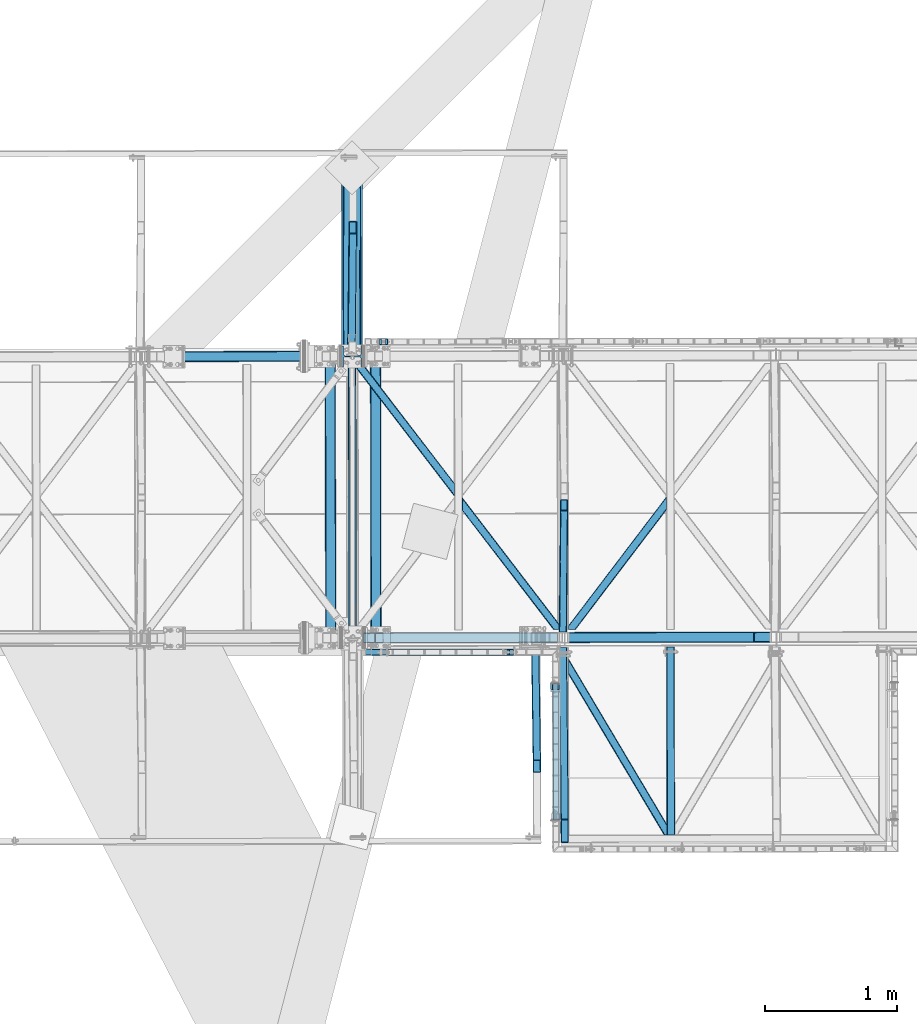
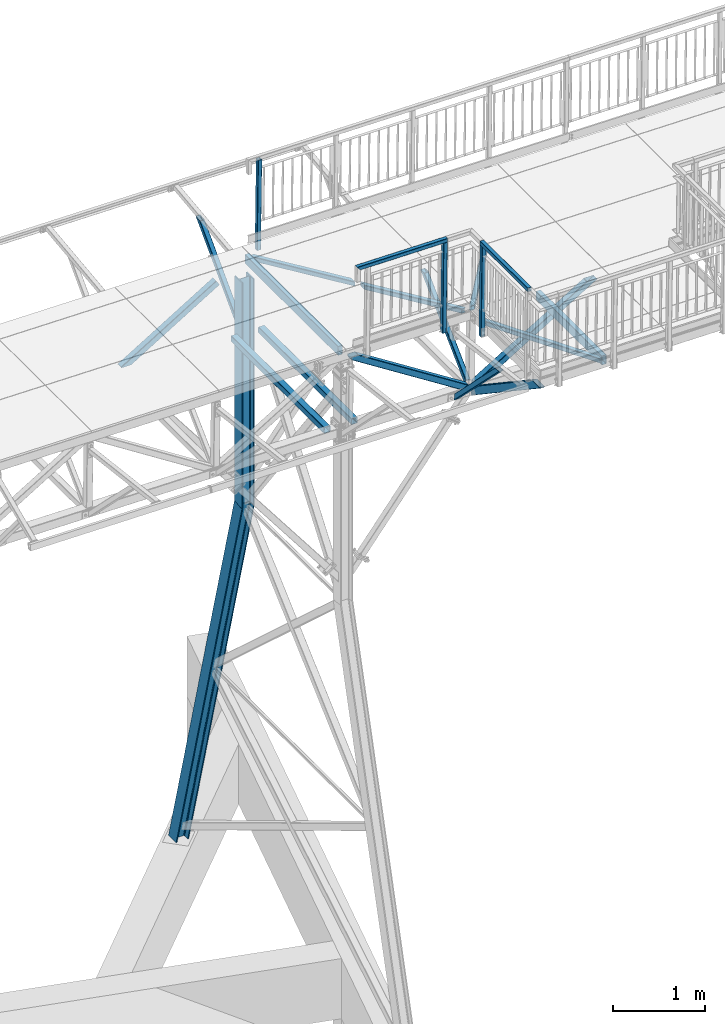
# One storey, part 55 of 169: 22 discrete accessories, 9 elements without a shape of their own.
"""IFC2X3 building model written with IfcOpenShell, lengths in millimetres."""

from ifc_helpers import new_model, si_unit, frame, origin_with_axes, origin_2d_with_axis, place, context, subcontext, project, spatial, polyline, rectangle, hollow_rectangle, i_section, outline, extrude, boolean, clip, halfspace, material, type_object, element, aggregate, save


model = new_model("IFC2X3")

# Units and contexts
model_context = context("Model", 3, precision=1e-05, world=origin_with_axes())
body_context = subcontext(model_context, "Body", "Model", "MODEL_VIEW")
ifc_project = project(units=[si_unit("LENGTHUNIT", "METRE", prefix="MILLI"), si_unit("AREAUNIT", "SQUARE_METRE"), si_unit("VOLUMEUNIT", "CUBIC_METRE"), si_unit("MASSUNIT", "GRAM", prefix="KILO"), si_unit("TIMEUNIT", "SECOND"), si_unit("PLANEANGLEUNIT", "RADIAN"), si_unit("SOLIDANGLEUNIT", "STERADIAN"), si_unit("THERMODYNAMICTEMPERATUREUNIT", "DEGREE_CELSIUS"), si_unit("LUMINOUSINTENSITYUNIT", "LUMEN")], contexts=[model_context])

# Site, building, storey
site_placement = place(None, origin_with_axes())
site = spatial("IfcSite", under=ifc_project, at=site_placement, Name="Undefined", CompositionType="ELEMENT")
building_placement = place(site_placement, origin_with_axes())
building = spatial("IfcBuilding", under=site, at=building_placement, Name="Undefined", CompositionType="ELEMENT")
storey_placement = place(building_placement, origin_with_axes())
storey = spatial("IfcBuildingStorey", under=building, at=storey_placement, Name="Undefined", CompositionType="ELEMENT", Elevation=0.0)

# Assembly, discrete accessory
assembly_1_placement = place(storey_placement, origin_with_axes())
assembly_1 = element("IfcElementAssembly", 1, at=assembly_1_placement, inside=storey, Name="Steel Assembly", AssemblyPlace="NOTDEFINED", PredefinedType="RIGID_FRAME")
ifc_material_1 = material(Name="STEEL/S355")
discrete_accessory_type_1 = type_object("IfcDiscreteAccessoryType", Name="BEAM")
discrete_accessory_1_placement = place(assembly_1_placement, frame((7509.94686979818, 59.0189367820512, 12845.709208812), z_axis=(-0.999917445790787, -0.00186469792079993, 0.0127131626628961), x_axis=(0.0103081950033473, -0.707088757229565, 0.707049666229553)))
discrete_accessory_1 = element("IfcDiscreteAccessory", 2, at=discrete_accessory_1_placement, type_object=discrete_accessory_type_1, material=ifc_material_1, Name="BEAM", ObjectType="SHS60*3", context=body_context, shape_type="Clipping", body=[
    clip(clip(extrude(hollow_rectangle(XDim=60.0, YDim=60.0, WallThickness=3.0, InnerFilletRadius=3.0, OuterFilletRadius=6.0, at=origin_2d_with_axis()), frame((1369.30849689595, 1.74297751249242e-12, 9.09494701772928e-13), z_axis=(-1.0, -3.46944695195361e-18, -1.38777878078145e-17), x_axis=(1.73472347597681e-18, -1.0, 0.0)), (0.0, 0.0, 1.0), 1420.91), halfspace(frame((1329.20790757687, -23.5606693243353, 999.999999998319), z_axis=(-0.619044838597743, -0.785355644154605, -4.97519511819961e-11), x_axis=(0.785355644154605, -0.619044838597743, 1.86615579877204e-10)), True)), halfspace(frame((18.3847806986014, 3.8198777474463e-11, -29.9999999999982), z_axis=(0.707106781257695, -0.7071067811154, 8.78533101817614e-11), x_axis=(-0.707106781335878, -0.707106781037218, 2.34571939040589e-10)), True)),
])
aggregate(assembly_1, [discrete_accessory_1])

# Assembly, discrete accessories
assembly_2_placement = place(storey_placement, origin_with_axes())
assembly_2 = element("IfcElementAssembly", 3, at=assembly_2_placement, inside=storey, Name="Steel Assembly", AssemblyPlace="NOTDEFINED", PredefinedType="RIGID_FRAME")
discrete_accessory_2_placement = place(assembly_2_placement, frame((7733.01307830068, -50.5652261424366, 13855.957583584), z_axis=(-0.859527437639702, -0.510972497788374, 0.0109403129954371), x_axis=(0.510931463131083, -0.859597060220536, -0.00647565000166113)))
discrete_accessory_2 = element("IfcDiscreteAccessory", 4, at=discrete_accessory_2_placement, type_object=discrete_accessory_type_1, material=ifc_material_1, Name="BEAM", ObjectType="K60/4", context=body_context, shape_type="CSG", body=[
    boolean("DIFFERENCE", boolean("DIFFERENCE", boolean("DIFFERENCE", extrude(hollow_rectangle(XDim=60.0, YDim=60.0, WallThickness=4.0, InnerFilletRadius=4.0, OuterFilletRadius=8.0, at=origin_2d_with_axis()), frame((1597.10981986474, -1.81898940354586e-12, -4.35061971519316e-15), z_axis=(-1.0, -3.46944695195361e-18, -1.38777878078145e-17), x_axis=(1.73472347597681e-18, -1.0, 0.0)), (0.0, 0.0, 1.0), 1589.8), extrude(rectangle(XDim=62.0, YDim=122.0, at=origin_2d_with_axis()), frame((1692.25891053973, -2.840765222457e-07, 66.2179347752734), z_axis=(-0.860548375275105, 1.48749394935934e-10, -0.509368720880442), x_axis=(0.509368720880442, -6.07765296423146e-11, -0.860548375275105)), (0.0, 0.0, 1.0), 260.0)), halfspace(frame((1045.20244886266, -5.60106855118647e-07, 845.267314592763), z_axis=(-0.860548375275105, 1.48749394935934e-10, -0.509368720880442), x_axis=(1.73472347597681e-18, -1.0, 0.0)), True)), halfspace(frame((875.829443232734, -1.36969902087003e-09, 483.552269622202), z_axis=(0.509368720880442, -6.07765296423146e-11, -0.860548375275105), x_axis=(0.0, 1.0, 0.0)), True)),
])
discrete_accessory_3_placement = place(assembly_2_placement, frame((7719.80919671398, 87.1453565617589, 12837.6423946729), z_axis=(-0.00954354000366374, -0.554718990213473, -0.831983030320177), x_axis=(0.00860362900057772, -0.832035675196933, 0.554655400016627)))
discrete_accessory_3 = element("IfcDiscreteAccessory", 5, at=discrete_accessory_3_placement, type_object=discrete_accessory_type_1, material=ifc_material_1, Name="BEAM", ObjectType="RHS100*60*3", context=body_context, shape_type="Clipping", body=[
    clip(clip(extrude(hollow_rectangle(XDim=60.0, YDim=100.0, WallThickness=3.0, InnerFilletRadius=3.0, OuterFilletRadius=6.0, at=origin_2d_with_axis()), frame((1838.237499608, 1.81739498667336e-12, -1.51286136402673e-12), z_axis=(-1.0, -3.46944695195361e-18, -1.38777878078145e-17), x_axis=(1.73472347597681e-18, -1.0, 0.0)), (0.0, 0.0, 1.0), 1838.24), halfspace(frame((90.2441333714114, 29.9999999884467, -58.3205029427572), z_axis=(-0.832050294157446, 3.38378720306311e-06, -0.554700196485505), x_axis=(-0.55470019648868, 4.88944351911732e-11, 0.83205029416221)), False)), halfspace(frame((2634.71045787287, 1.16597220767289e-09, 604.623214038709), z_axis=(-0.55470019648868, 4.88944351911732e-11, 0.83205029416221), x_axis=(1.73472347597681e-18, -1.0, 0.0)), True)),
])
discrete_accessory_4_placement = place(assembly_2_placement, frame((8537.74150924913, 60.9356642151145, 13845.723483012), z_axis=(-0.012713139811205, -2.37511238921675e-05, -0.999919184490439), x_axis=(0.00186484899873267, -0.999998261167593, 4.28757666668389e-08)))
discrete_accessory_4 = element("IfcDiscreteAccessory", 6, at=discrete_accessory_4_placement, type_object=discrete_accessory_type_1, material=ifc_material_1, Name="BEAM", ObjectType="RHS120*60*3", context=body_context, shape_type="Clipping", body=[
    clip(clip(extrude(hollow_rectangle(XDim=60.0, YDim=120.0, WallThickness=3.0, InnerFilletRadius=3.0, OuterFilletRadius=6.0, at=origin_2d_with_axis()), frame((1439.99999969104, 4.90047387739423e-16, 6.78473390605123e-18), z_axis=(-1.0, -3.46944695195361e-18, -1.38777878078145e-17), x_axis=(1.73472347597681e-18, -1.0, 0.0)), (0.0, 0.0, 1.0), 1425.0), halfspace(frame((1439.99999981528, 6.08997652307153e-09, -1000.00000000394), z_axis=(-1.0, -3.46944695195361e-18, -1.38777878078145e-17), x_axis=(0.0, 1.0, 0.0)), True)), halfspace(frame((14.999999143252, -1.08593667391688e-09, -159.999999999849), z_axis=(-1.0, -3.46944695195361e-18, -1.38777878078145e-17), x_axis=(0.0, 1.0, 0.0)), False)),
])
aggregate(assembly_2, [discrete_accessory_2, discrete_accessory_3, discrete_accessory_4])

# Assembly, discrete accessory
assembly_3_placement = place(storey_placement, origin_with_axes())
assembly_3 = element("IfcElementAssembly", 7, at=assembly_3_placement, inside=storey, Name="Steel Assembly", AssemblyPlace="NOTDEFINED", PredefinedType="RIGID_FRAME")
discrete_accessory_5_placement = place(assembly_3_placement, frame((6115.36568612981, 2315.9424711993, 12863.38653786), z_axis=(-0.999917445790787, -0.00186469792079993, 0.0127131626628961), x_axis=(0.00767090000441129, 0.707122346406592, 0.70704960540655)))
discrete_accessory_5 = element("IfcDiscreteAccessory", 8, at=discrete_accessory_5_placement, type_object=discrete_accessory_type_1, material=ifc_material_1, Name="BEAM", ObjectType="SHS60*3", context=body_context, shape_type="Clipping", body=[
    clip(clip(extrude(hollow_rectangle(XDim=60.0, YDim=60.0, WallThickness=3.0, InnerFilletRadius=3.0, OuterFilletRadius=6.0, at=origin_2d_with_axis()), frame((1369.14752563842, 1.89499235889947e-12, 0.0), z_axis=(-1.0, -3.46944695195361e-18, -1.38777878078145e-17), x_axis=(1.73472347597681e-18, -1.0, 0.0)), (0.0, 0.0, 1.0), 1499.11), halfspace(frame((1329.20790811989, 23.56066933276, 999.999999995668), z_axis=(-0.619044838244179, 0.785355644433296, -1.17904057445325e-10), x_axis=(-0.785355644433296, -0.619044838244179, 2.44605871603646e-10)), True)), halfspace(frame((-30.0927723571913, -30.0398988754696, 0.540141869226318), z_axis=(0.707106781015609, 0.707106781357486, 0.0), x_axis=(-0.00898967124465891, 0.00898968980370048, 0.999919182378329)), True)),
])
aggregate(assembly_3, [discrete_accessory_5])

assembly_4_placement = place(storey_placement, origin_with_axes())
assembly_4 = element("IfcElementAssembly", 9, at=assembly_4_placement, inside=storey, Name="Steel Assembly", AssemblyPlace="NOTDEFINED", PredefinedType="RIGID_FRAME")
discrete_accessory_6_placement = place(assembly_4_placement, frame((5776.91884338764, 2255.79106076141, 13668.8964315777), z_axis=(0.518820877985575, 0.000967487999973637, -0.854882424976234), x_axis=(-0.854880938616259, -0.00159424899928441, -0.51882177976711)))
discrete_accessory_6 = element("IfcDiscreteAccessory", 10, at=discrete_accessory_6_placement, type_object=discrete_accessory_type_1, material=ifc_material_1, Name="BEAM", ObjectType="K80/4", context=body_context, shape_type="CSG", body=[
    boolean("DIFFERENCE", boolean("DIFFERENCE", boolean("DIFFERENCE", extrude(hollow_rectangle(XDim=80.0, YDim=80.0, WallThickness=4.0, InnerFilletRadius=4.0, OuterFilletRadius=8.0, at=origin_2d_with_axis()), frame((1488.04600970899, 4.54345182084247e-13, 8.26031470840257e-14), z_axis=(-1.0, -3.46944695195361e-18, -1.38777878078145e-17), x_axis=(1.73472347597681e-18, -1.0, 0.0)), (0.0, 0.0, 1.0), 1471.55), extrude(rectangle(XDim=122.0, YDim=122.0, at=origin_2d_with_axis()), frame((-243.130512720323, -2.13922708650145e-06, 1080.98959429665), z_axis=(0.848217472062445, 4.64185049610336e-11, -0.529648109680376), x_axis=(0.529648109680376, -3.80183087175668e-10, 0.848217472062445)), (0.0, 0.0, 1.0), 4081.92)), extrude(rectangle(XDim=82.0, YDim=82.0, at=origin_2d_with_axis()), frame((388.002908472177, -3.30034448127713e-07, -1761.7687900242), z_axis=(0.529648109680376, -3.80183087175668e-10, 0.848217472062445), x_axis=(1.73472347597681e-18, -1.0, 0.0)), (0.0, 0.0, 1.0), 4154.05)), halfspace(frame((16.5000003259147, 3.71528585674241e-10, -1000.00000000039), z_axis=(1.0, 0.0, 0.0), x_axis=(1.73472347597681e-18, -1.0, 0.0)), True)),
])

# Assembly, discrete accessories
assembly_5_placement = place(storey_placement, origin_with_axes())
assembly_5 = element("IfcElementAssembly", 11, at=assembly_5_placement, inside=storey, Name="Steel Assembly", AssemblyPlace="NOTDEFINED", PredefinedType="RIGID_FRAME")
discrete_accessory_7_placement = place(assembly_5_placement, frame((6122.8289240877, 116.432315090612, 13876.4256563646), z_axis=(0.538381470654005, 0.00100403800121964, 0.842700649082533), x_axis=(0.842699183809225, 0.00157148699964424, -0.538382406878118)))
solid = boolean("DIFFERENCE", extrude(i_section(OverallWidth=160.0, OverallDepth=160.0, WebThickness=8.0, FlangeThickness=13.0, FilletRadius=15.0, at=origin_2d_with_axis()), frame((100.660248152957, 0.00197357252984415, -156.828318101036), z_axis=(-0.538382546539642, -1.22572342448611e-05, 0.842700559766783), x_axis=(-6.58769611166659e-06, 0.99999999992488, 1.03364517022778e-05)), (0.0, 0.0, 1.0), 125.0), extrude(outline(polyline([(0.0, 0.0), (15.0, 0.0), (1.40171323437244e-08, 80.0000000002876), (0.0, 0.0)])), frame((102.035276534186, -79.9991766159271, -4.81614943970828), z_axis=(-0.84270055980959, 1.3509974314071e-08, -0.538382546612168), x_axis=(0.0, 1.0, 0.0)), (0.0, 0.0, 1.0), 166.0))
discrete_accessory_7 = element("IfcDiscreteAccessory", 12, at=discrete_accessory_7_placement, type_object=discrete_accessory_type_1, material=ifc_material_1, Name="BEAM", ObjectType="K80/4", context=body_context, shape_type="CSG", body=[
    boolean("DIFFERENCE", boolean("DIFFERENCE", boolean("DIFFERENCE", boolean("DIFFERENCE", extrude(hollow_rectangle(XDim=80.0, YDim=80.0, WallThickness=4.0, InnerFilletRadius=4.0, OuterFilletRadius=8.0, at=origin_2d_with_axis()), frame((1895.28365458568, 2.8368149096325e-14, 0.0), z_axis=(-1.0, -3.46944695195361e-18, -1.38777878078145e-17), x_axis=(1.73472347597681e-18, -1.0, 0.0)), (0.0, 0.0, 1.0), 1895.28), extrude(outline(polyline([(0.0, 0.0), (90.1285629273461, 4.82941686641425e-10), (90.1285629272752, 80.0000000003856), (1.40171323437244e-08, 80.0000000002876), (0.0, 0.0)])), frame((149.977070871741, 42.9999945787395, -83.5705820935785), z_axis=(1.73472347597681e-18, -1.0, 0.0), x_axis=(-0.538382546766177, -4.22125940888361e-08, 0.842700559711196)), (0.0, 0.0, 1.0), 86.0)), solid), extrude(rectangle(XDim=122.0, YDim=122.0, at=origin_2d_with_axis()), frame((1716.88204430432, -6.61778278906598e-07, 1066.38646700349), z_axis=(-0.849477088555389, 2.61340201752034e-10, -0.527625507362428), x_axis=(0.527625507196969, -3.47074672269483e-10, -0.849477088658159)), (0.0, 0.0, 1.0), 4042.21)), extrude(rectangle(XDim=82.0, YDim=82.0, at=origin_2d_with_axis()), frame((799.406100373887, 1.9632717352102e-07, 1764.36290814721), z_axis=(0.527625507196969, -3.47074672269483e-10, -0.849477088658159), x_axis=(1.73472347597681e-18, -1.0, 0.0)), (0.0, 0.0, 1.0), 4154.0)),
])
discrete_accessory_8_placement = place(assembly_5_placement, frame((7719.98291220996, 119.410728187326, 12856.038280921), z_axis=(-0.516782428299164, -0.000963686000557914, 0.856116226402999), x_axis=(0.856114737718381, 0.00159654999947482, 0.516783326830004)))
discrete_accessory_8 = element("IfcDiscreteAccessory", 13, at=discrete_accessory_8_placement, type_object=discrete_accessory_type_1, material=ifc_material_1, Name="BEAM", ObjectType="K80/4", context=body_context, shape_type="CSG", body=[
    boolean("DIFFERENCE", boolean("DIFFERENCE", boolean("DIFFERENCE", extrude(hollow_rectangle(XDim=80.0, YDim=80.0, WallThickness=4.0, InnerFilletRadius=4.0, OuterFilletRadius=8.0, at=origin_2d_with_axis()), frame((1895.28365458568, 2.8368149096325e-14, 0.0), z_axis=(-1.0, -3.46944695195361e-18, -1.38777878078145e-17), x_axis=(1.73472347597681e-18, -1.0, 0.0)), (0.0, 0.0, 1.0), 1895.28), extrude(rectangle(XDim=122.0, YDim=122.0, at=origin_2d_with_axis()), frame((3629.06675415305, -2.8717456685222e-06, -1076.88375378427), z_axis=(-0.849477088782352, -3.93457825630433e-11, 0.527625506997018), x_axis=(-0.527625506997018, 2.00772915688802e-10, -0.849477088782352)), (0.0, 0.0, 1.0), 4082.0)), extrude(rectangle(XDim=82.0, YDim=82.0, at=origin_2d_with_axis()), frame((2974.2784408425, -3.47822028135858e-07, 1737.18165073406), z_axis=(-0.527625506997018, 2.00772915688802e-10, -0.849477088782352), x_axis=(1.73472347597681e-18, -1.0, 0.0)), (0.0, 0.0, 1.0), 4090.0)), extrude(rectangle(XDim=82.0, YDim=82.0, at=origin_2d_with_axis()), frame((1095.8775547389, -6.81045717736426e-07, 1764.36290780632), z_axis=(-0.527625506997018, 2.00772915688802e-10, -0.849477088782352), x_axis=(1.73472347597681e-18, -1.0, 0.0)), (0.0, 0.0, 1.0), 4154.0)),
])
aggregate(assembly_5, [discrete_accessory_7, discrete_accessory_8])

# Assembly, discrete accessory
assembly_6_placement = place(storey_placement, origin_with_axes())
assembly_6 = element("IfcElementAssembly", 14, at=assembly_6_placement, inside=storey, Name="Steel Assembly", AssemblyPlace="NOTDEFINED", PredefinedType="RIGID_FRAME")
discrete_accessory_9_placement = place(assembly_6_placement, frame((7732.69605231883, 119.434584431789, 13855.9574654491), z_axis=(0.796064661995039, -0.605127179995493, -0.0101069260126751), x_axis=(0.605078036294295, 0.796128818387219, -0.00771197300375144)))
discrete_accessory_9 = element("IfcDiscreteAccessory", 15, at=discrete_accessory_9_placement, type_object=discrete_accessory_type_1, material=ifc_material_1, Name="BEAM", ObjectType="K60/4", context=body_context, shape_type="CSG", body=[
    boolean("DIFFERENCE", boolean("DIFFERENCE", boolean("DIFFERENCE", extrude(hollow_rectangle(XDim=60.0, YDim=60.0, WallThickness=4.0, InnerFilletRadius=4.0, OuterFilletRadius=8.0, at=origin_2d_with_axis()), frame((1317.88045895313, 1.14307908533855e-15, -1.87685778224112e-12), z_axis=(-1.0, -3.46944695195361e-18, -1.38777878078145e-17), x_axis=(1.73472347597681e-18, -1.0, 0.0)), (0.0, 0.0, 1.0), 1317.88), extrude(rectangle(XDim=122.0, YDim=122.0, at=origin_2d_with_axis()), frame((1232.02617983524, 0.000108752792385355, 1614.64314702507), z_axis=(-0.606610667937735, 2.83045446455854e-10, -0.794999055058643), x_axis=(1.73472347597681e-18, -1.0, 0.0)), (0.0, 0.0, 1.0), 4062.0)), extrude(rectangle(XDim=62.0, YDim=122.0, at=origin_2d_with_axis()), frame((1638.49296551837, -1.93246750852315e-06, -1250.22451956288), z_axis=(-0.794999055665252, -4.2238609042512e-08, 0.606610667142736), x_axis=(0.606610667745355, -4.65838344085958e-10, 0.794999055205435)), (0.0, 0.0, 1.0), 4122.0)), halfspace(frame((513.848229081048, 1.26783561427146e-08, 582.760696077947), z_axis=(-0.606610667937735, 2.83045446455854e-10, -0.794999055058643), x_axis=(1.73472347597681e-18, -1.0, 0.0)), True)),
])

assembly_7_placement = place(storey_placement, origin_with_axes())
assembly_7 = element("IfcElementAssembly", 16, at=assembly_7_placement, inside=storey, Name="Steel Assembly", AssemblyPlace="NOTDEFINED", PredefinedType="RIGID_FRAME")
discrete_accessory_10_placement = place(assembly_7_placement, frame((6119.29505382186, 2256.42947121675, 10590.4170596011), z_axis=(-0.99999826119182, -0.00186483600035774, -1.66000011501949e-07), x_axis=(-0.000484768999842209, 0.260038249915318, -0.965598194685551)))
discrete_accessory_10 = element("IfcDiscreteAccessory", 17, at=discrete_accessory_10_placement, type_object=discrete_accessory_type_1, material=ifc_material_1, Name="BEAM", ObjectType="HEB160", context=body_context, shape_type="Clipping", body=[
    clip(clip(extrude(i_section(OverallWidth=160.0, OverallDepth=160.0, WebThickness=8.0, FlangeThickness=13.0, FilletRadius=15.0, at=origin_2d_with_axis()), frame((5552.43096023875, 9.09494701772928e-13, -1.0787717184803e-16), z_axis=(-1.0, -3.46944695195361e-18, -1.38777878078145e-17), x_axis=(1.73472347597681e-18, -1.0, 0.0)), (0.0, 0.0, 1.0), 5605.68), halfspace(frame((5499.88199657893, -2.60040103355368, 999.999999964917), z_axis=(-0.965598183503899, -0.260038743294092, -3.76998928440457e-09), x_axis=(0.260038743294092, -0.965598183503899, -1.30619118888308e-08)), True)), halfspace(frame((10.5835919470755, -80.0000000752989, -1.15775128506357e-06), z_axis=(-0.991362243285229, -0.131152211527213, -1.89317424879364e-09), x_axis=(-2.54700353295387e-10, 0.0, -1.0)), False)),
])

# Discrete accessory
discrete_accessory_11_placement = place(assembly_6_placement, frame((6300.50635337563, 116.763718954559, 12874.0859174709), z_axis=(0.012713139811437, 2.3750999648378e-05, 0.999919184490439), x_axis=(-0.0018648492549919, 0.999998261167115, -4.2996762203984e-08)))
discrete_accessory_11 = element("IfcDiscreteAccessory", 18, at=discrete_accessory_11_placement, type_object=discrete_accessory_type_1, material=ifc_material_1, Name="BEAM", ObjectType="K80/4", context=body_context, shape_type="Clipping", body=[
    clip(clip(extrude(hollow_rectangle(XDim=80.0, YDim=80.0, WallThickness=4.0, InnerFilletRadius=4.0, OuterFilletRadius=8.0, at=origin_2d_with_axis()), frame((2079.99999999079, 5.70364343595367e-14, -1.83064995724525e-18), z_axis=(-1.0, -3.46944695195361e-18, -1.38777878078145e-17), x_axis=(1.73472347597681e-18, -1.0, 0.0)), (0.0, 0.0, 1.0), 2020.0), halfspace(frame((2079.99999986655, -1.53990526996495e-08, 999.999999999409), z_axis=(-1.0, -3.46944695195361e-18, -1.38777878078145e-17), x_axis=(1.73472347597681e-18, -1.0, 0.0)), True)), halfspace(frame((59.9998947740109, 1.52502366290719e-08, 999.99999999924), z_axis=(1.0, 0.0, 0.0), x_axis=(0.0, 1.0, 0.0)), True)),
])

discrete_accessory_12_placement = place(assembly_4_placement, frame((5956.50062034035, 116.122199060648, 12878.4596802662), z_axis=(0.012713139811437, 2.3750999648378e-05, 0.999919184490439), x_axis=(-0.0018648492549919, 0.999998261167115, -4.2996762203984e-08)))
discrete_accessory_12 = element("IfcDiscreteAccessory", 19, at=discrete_accessory_12_placement, type_object=discrete_accessory_type_1, material=ifc_material_1, Name="BEAM", ObjectType="K80/4", context=body_context, shape_type="Clipping", body=[
    clip(clip(extrude(hollow_rectangle(XDim=80.0, YDim=80.0, WallThickness=4.0, InnerFilletRadius=4.0, OuterFilletRadius=8.0, at=origin_2d_with_axis()), frame((2079.99999999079, 5.70364343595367e-14, -1.83064995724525e-18), z_axis=(-1.0, -3.46944695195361e-18, -1.38777878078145e-17), x_axis=(1.73472347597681e-18, -1.0, 0.0)), (0.0, 0.0, 1.0), 2020.0), halfspace(frame((2079.99999986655, -1.53990526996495e-08, 999.999999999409), z_axis=(-1.0, -3.46944695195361e-18, -1.38777878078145e-17), x_axis=(1.73472347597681e-18, -1.0, 0.0)), True)), halfspace(frame((59.9998947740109, 1.52502366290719e-08, 999.99999999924), z_axis=(1.0, 0.0, 0.0), x_axis=(0.0, 1.0, 0.0)), True)),
])

aggregate(assembly_4, [discrete_accessory_6, discrete_accessory_12])

discrete_accessory_13_placement = place(assembly_6_placement, frame((7719.98291271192, 119.410833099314, 12856.0382808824), z_axis=(-0.0105615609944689, 0.682786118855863, -0.730541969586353), x_axis=(0.00731813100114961, 0.730615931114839, 0.682749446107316)))
discrete_accessory_13 = element("IfcDiscreteAccessory", 20, at=discrete_accessory_13_placement, type_object=discrete_accessory_type_1, material=ifc_material_1, Name="BEAM", ObjectType="K60/4", context=body_context, shape_type="CSG", body=[
    boolean("DIFFERENCE", boolean("DIFFERENCE", boolean("DIFFERENCE", boolean("DIFFERENCE", extrude(hollow_rectangle(XDim=60.0, YDim=60.0, WallThickness=4.0, InnerFilletRadius=4.0, OuterFilletRadius=8.0, at=origin_2d_with_axis()), frame((1409.62306429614, 2.44530622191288e-15, -3.48147920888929e-12), z_axis=(-1.0, -3.46944695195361e-18, -1.38777878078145e-17), x_axis=(1.73472347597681e-18, -1.0, 0.0)), (0.0, 0.0, 1.0), 1409.62), extrude(rectangle(XDim=122.0, YDim=122.0, at=origin_2d_with_axis()), frame((-3.0605420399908e-06, 2029.999999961, -0.000155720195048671), z_axis=(1.73472347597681e-18, -1.0, 0.0), x_axis=(-0.682804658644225, 7.91412114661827e-10, 0.730600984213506)), (0.0, 0.0, 1.0), 4060.0)), extrude(rectangle(XDim=82.0, YDim=82.0, at=origin_2d_with_axis()), frame((1491.15653144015, 6.98136768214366e-07, 1393.60423636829), z_axis=(-0.730600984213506, -8.41296776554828e-11, -0.682804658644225), x_axis=(0.0, 1.0, 0.0)), (0.0, 0.0, 1.0), 4082.0)), extrude(rectangle(XDim=82.0, YDim=82.0, at=origin_2d_with_axis()), frame((1393.60423162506, -1.60659598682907e-06, -1491.15668038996), z_axis=(-0.682804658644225, 7.91412114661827e-10, 0.730600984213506), x_axis=(-0.730600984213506, -8.41296776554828e-11, -0.682804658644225)), (0.0, 0.0, 1.0), 4082.0)), halfspace(frame((2154.18041553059, 4.7799403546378e-08, 726.64071778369), z_axis=(-0.682804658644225, 7.91412114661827e-10, 0.730600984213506), x_axis=(1.73472347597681e-18, -1.0, 0.0)), True)),
])

discrete_accessory_14_placement = place(assembly_6_placement, frame((6925.79507152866, 1172.93166774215, 13866.1915152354), z_axis=(-0.793802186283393, -0.608092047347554, 0.0101069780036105), x_axis=(0.608043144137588, -0.793866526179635, -0.00771190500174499)))
discrete_accessory_14 = element("IfcDiscreteAccessory", 21, at=discrete_accessory_14_placement, type_object=discrete_accessory_type_1, material=ifc_material_1, Name="BEAM", ObjectType="K60/4", context=body_context, shape_type="CSG", body=[
    boolean("DIFFERENCE", boolean("DIFFERENCE", boolean("DIFFERENCE", extrude(hollow_rectangle(XDim=60.0, YDim=60.0, WallThickness=4.0, InnerFilletRadius=4.0, OuterFilletRadius=8.0, at=origin_2d_with_axis()), frame((1327.04560324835, -1.81783837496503e-12, 1.8913063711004e-12), z_axis=(-1.0, -3.46944695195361e-18, -1.38777878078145e-17), x_axis=(1.73472347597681e-18, -1.0, 0.0)), (0.0, 0.0, 1.0), 1317.77), extrude(rectangle(XDim=122.0, YDim=122.0, at=origin_2d_with_axis()), frame((2559.07206009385, 0.000108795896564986, -1614.6431455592), z_axis=(-0.606610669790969, 1.9093520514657e-10, 0.794999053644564), x_axis=(1.73472347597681e-18, -1.0, 0.0)), (0.0, 0.0, 1.0), 4062.0)), extrude(rectangle(XDim=62.0, YDim=122.0, at=origin_2d_with_axis()), frame((-311.447359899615, 7.92361939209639e-07, -1250.22452235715), z_axis=(0.794999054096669, -5.08714775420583e-10, 0.606610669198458), x_axis=(0.606610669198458, -3.85695368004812e-10, -0.79499905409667)), (0.0, 0.0, 1.0), 4122.0)), halfspace(frame((813.19737539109, -1.17615854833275e-08, 582.760697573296), z_axis=(0.606610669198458, -3.85695368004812e-10, -0.79499905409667), x_axis=(0.0, 1.0, 0.0)), True)),
])

discrete_accessory_15_placement = place(assembly_6_placement, frame((6118.83814573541, 2256.42869892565, 13876.4255639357), z_axis=(-0.793802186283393, -0.608092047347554, 0.0101069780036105), x_axis=(0.608043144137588, -0.793866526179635, -0.00771190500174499)))
discrete_accessory_15 = element("IfcDiscreteAccessory", 22, at=discrete_accessory_15_placement, type_object=discrete_accessory_type_1, material=ifc_material_1, Name="BEAM", ObjectType="K60/4", context=body_context, shape_type="CSG", body=[
    boolean("DIFFERENCE", boolean("DIFFERENCE", boolean("DIFFERENCE", extrude(hollow_rectangle(XDim=60.0, YDim=60.0, WallThickness=4.0, InnerFilletRadius=4.0, OuterFilletRadius=8.0, at=origin_2d_with_axis()), frame((1317.7688721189, 1.14298229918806e-15, -1.89206883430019e-12), z_axis=(-1.0, -3.46944695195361e-18, -1.38777878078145e-17), x_axis=(1.73472347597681e-18, -1.0, 0.0)), (0.0, 0.0, 1.0), 1317.77), extrude(rectangle(XDim=122.0, YDim=122.0, at=origin_2d_with_axis()), frame((1232.02636237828, 0.000109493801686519, -1614.64300936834), z_axis=(-0.606610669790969, 1.9093520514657e-10, 0.794999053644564), x_axis=(0.0, 1.0, 0.0)), (0.0, 0.0, 1.0), 4062.0)), extrude(rectangle(XDim=62.0, YDim=122.0, at=origin_2d_with_axis()), frame((-1638.49305022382, 1.48884142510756e-06, -1250.22459069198), z_axis=(0.794999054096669, -5.08714775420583e-10, 0.606610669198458), x_axis=(0.606610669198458, -3.85695368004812e-10, -0.79499905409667)), (0.0, 0.0, 1.0), 4122.0)), halfspace(frame((2103.84633729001, 1.13759597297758e-08, 630.460640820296), z_axis=(-0.606610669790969, 1.9093520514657e-10, 0.794999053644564), x_axis=(1.73472347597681e-18, -1.0, 0.0)), True)),
])

discrete_accessory_16_placement = place(assembly_6_placement, frame((6122.8289239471, 116.432419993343, 13876.4256565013), z_axis=(0.012713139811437, 2.3750999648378e-05, 0.999919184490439), x_axis=(-0.0018648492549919, 0.999998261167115, -4.2996762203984e-08)))
discrete_accessory_16 = element("IfcDiscreteAccessory", 23, at=discrete_accessory_16_placement, type_object=discrete_accessory_type_1, material=ifc_material_1, Name="BEAM", ObjectType="RHS120*60*3", context=body_context, shape_type="Clipping", body=[
    clip(clip(extrude(hollow_rectangle(XDim=60.0, YDim=120.0, WallThickness=3.0, InnerFilletRadius=3.0, OuterFilletRadius=6.0, at=origin_2d_with_axis()), frame((2079.99988425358, -2.58114747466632e-16, -1.81898421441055e-12), z_axis=(-1.0, -3.46944695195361e-18, -1.38777878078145e-17), x_axis=(1.73472347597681e-18, -1.0, 0.0)), (0.0, 0.0, 1.0), 2020.0), halfspace(frame((2079.99984112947, 4.96547727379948e-08, 999.999997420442), z_axis=(-1.0, -3.46944695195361e-18, -1.38777878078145e-17), x_axis=(1.73472347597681e-18, -1.0, 0.0)), True)), halfspace(frame((59.9998947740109, 1.52502366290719e-08, 999.99999999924), z_axis=(1.0, 0.0, 0.0), x_axis=(0.0, 1.0, 0.0)), True)),
])

aggregate(assembly_6, [discrete_accessory_9, discrete_accessory_11, discrete_accessory_13, discrete_accessory_14, discrete_accessory_15, discrete_accessory_16])

discrete_accessory_17_placement = place(assembly_7_placement, frame((6119.29448201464, 2256.42947015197, 13575.4176699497), z_axis=(-0.99999826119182, -0.00186483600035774, -1.66000011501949e-07), x_axis=(-2.54700353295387e-10, 0.0, -1.0)))
discrete_accessory_17 = element("IfcDiscreteAccessory", 24, at=discrete_accessory_17_placement, type_object=discrete_accessory_type_1, material=ifc_material_1, Name="BEAM", ObjectType="HEB160", context=body_context, shape_type="Clipping", body=[
    clip(clip(extrude(i_section(OverallWidth=160.0, OverallDepth=160.0, WebThickness=8.0, FlangeThickness=13.0, FilletRadius=15.0, at=origin_2d_with_axis()), frame((2985.00060696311, -4.54747350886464e-13, -9.0949462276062e-13), z_axis=(-1.0, -3.46944695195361e-18, -1.38777878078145e-17), x_axis=(1.73472347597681e-18, -1.0, 0.0)), (0.0, 0.0, 1.0), 2994.85), halfspace(frame((2974.41701143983, -80.0000000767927, -7.74118625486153e-05), z_axis=(-0.991362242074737, 0.13115222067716, -1.76969940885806e-09), x_axis=(-2.54700353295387e-10, 0.0, -1.0)), True)), halfspace(frame((-11.4429026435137, -3.62541504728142e-05, -1000.01468426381), z_axis=(0.999998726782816, -4.92529531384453e-06, -0.00159574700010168), x_axis=(-4.92530956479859e-06, -0.999999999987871, -5.00080841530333e-09)), True)),
])

aggregate(assembly_7, [discrete_accessory_10, discrete_accessory_17])

# Assembly, discrete accessories
assembly_8_placement = place(storey_placement, origin_with_axes())
assembly_8 = element("IfcElementAssembly", 25, at=assembly_8_placement, inside=storey, Name="Steel Assembly", AssemblyPlace="NOTDEFINED", PredefinedType="RIGID_FRAME")
ifc_material_2 = material(Name="STEEL/S235")
discrete_accessory_type_2 = type_object("IfcDiscreteAccessoryType", Name="PORĘCZ")
discrete_accessory_18_placement = place(assembly_8_placement, frame((6236.96757848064, 6.64502491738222, 15035.0709513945), z_axis=(-0.0018648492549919, 0.999998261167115, -4.2996762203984e-08), x_axis=(0.9999174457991, 0.00186469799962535, -0.0127131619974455)))
discrete_accessory_18 = element("IfcDiscreteAccessory", 26, at=discrete_accessory_18_placement, type_object=discrete_accessory_type_2, material=ifc_material_2, Name="PORĘCZ", ObjectType="RHS50*3", context=body_context, shape_type="Clipping", body=[
    clip(extrude(hollow_rectangle(XDim=50.0, YDim=50.0, WallThickness=3.0, InnerFilletRadius=3.0, OuterFilletRadius=6.0, at=origin_2d_with_axis()), frame((1125.0000000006, -1.81508627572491e-12, 3.57748919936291e-16), z_axis=(-1.0, -3.46944695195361e-18, -1.38777878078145e-17), x_axis=(1.73472347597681e-18, -1.0, 0.0)), (0.0, 0.0, 1.0), 1142.77), halfspace(frame((-16.6944628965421, -25.0000000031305, -3.10219672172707e-09), z_axis=(-0.707106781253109, 0.707106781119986, 1.80100347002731e-10), x_axis=(-2.54700353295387e-10, 0.0, -1.0)), False)),
])
discrete_accessory_19_placement = place(assembly_8_placement, frame((7670.03257983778, -1265.68473629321, 15016.8809446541), z_axis=(0.9999174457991, 0.00186469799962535, -0.0127131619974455), x_axis=(-0.0018648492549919, 0.999998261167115, -4.2996762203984e-08)))
discrete_accessory_19 = element("IfcDiscreteAccessory", 27, at=discrete_accessory_19_placement, type_object=discrete_accessory_type_2, material=ifc_material_2, Name="PORĘCZ", ObjectType="RHS50*3", context=body_context, shape_type="SweptSolid", body=[
    extrude(hollow_rectangle(XDim=50.0, YDim=50.0, WallThickness=3.0, InnerFilletRadius=3.0, OuterFilletRadius=6.0, at=origin_2d_with_axis()), frame((1035.00000008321, -1.81899111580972e-12, -3.89791946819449e-16), z_axis=(-1.0, -3.46944695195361e-18, -1.38777878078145e-17), x_axis=(1.73472347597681e-18, -1.0, 0.0)), (0.0, 0.0, 1.0), 1035.0),
])
discrete_accessory_type_3 = type_object("IfcDiscreteAccessoryType", Name="STANCHION")
discrete_accessory_20_placement = place(assembly_8_placement, frame((7654.16462850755, -255.712618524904, 13916.9697982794), z_axis=(-0.999917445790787, -0.00186469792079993, 0.0127131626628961), x_axis=(0.012713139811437, 2.3750999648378e-05, 0.999919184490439)))
discrete_accessory_20 = element("IfcDiscreteAccessory", 28, at=discrete_accessory_20_placement, type_object=discrete_accessory_type_3, material=ifc_material_2, Name="STANCHION", ObjectType="SHS50*3", context=body_context, shape_type="Clipping", body=[
    clip(clip(extrude(hollow_rectangle(XDim=50.0, YDim=50.0, WallThickness=3.0, InnerFilletRadius=3.0, OuterFilletRadius=6.0, at=origin_2d_with_axis()), frame((1074.99999999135, -5.68489533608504e-14, -9.13224357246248e-13), z_axis=(-1.0, -3.46944695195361e-18, -1.38777878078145e-17), x_axis=(1.73472347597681e-18, -1.0, 0.0)), (0.0, 0.0, 1.0), 1195.0), halfspace(frame((1074.99999979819, -3.79020548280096e-09, 999.999999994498), z_axis=(-1.0, -3.46944695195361e-18, -1.38777878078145e-17), x_axis=(1.73472347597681e-18, -1.0, 0.0)), True)), halfspace(frame((-120.000000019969, -1025.00000000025, -5.14306819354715e-10), z_axis=(1.0, 0.0, 0.0), x_axis=(0.0, 0.0, 1.0)), True)),
])
discrete_accessory_21_placement = place(assembly_8_placement, frame((7322.89231058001, 8.670066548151, 13921.1753702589), z_axis=(0.00186484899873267, -0.999998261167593, 4.28757666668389e-08), x_axis=(0.012713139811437, 2.3750999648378e-05, 0.999919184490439)))
discrete_accessory_21 = element("IfcDiscreteAccessory", 29, at=discrete_accessory_21_placement, type_object=discrete_accessory_type_3, material=ifc_material_2, Name="STANCHION", ObjectType="SHS50*3", context=body_context, shape_type="Clipping", body=[
    clip(clip(extrude(hollow_rectangle(XDim=50.0, YDim=50.0, WallThickness=3.0, InnerFilletRadius=3.0, OuterFilletRadius=6.0, at=origin_2d_with_axis()), frame((1074.99999999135, -5.68489533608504e-14, -9.13224357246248e-13), z_axis=(-1.0, -3.46944695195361e-18, -1.38777878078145e-17), x_axis=(1.73472347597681e-18, -1.0, 0.0)), (0.0, 0.0, 1.0), 1195.0), halfspace(frame((1074.99999979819, -3.79020548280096e-09, 999.999999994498), z_axis=(-1.0, -3.46944695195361e-18, -1.38777878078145e-17), x_axis=(1.73472347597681e-18, -1.0, 0.0)), True)), halfspace(frame((-120.000000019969, -1025.00000000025, -5.14306819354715e-10), z_axis=(1.0, 0.0, 0.0), x_axis=(0.0, 0.0, 1.0)), True)),
])
aggregate(assembly_8, [discrete_accessory_18, discrete_accessory_19, discrete_accessory_20, discrete_accessory_21])

# Assembly, discrete accessory
assembly_9_placement = place(storey_placement, origin_with_axes())
assembly_9 = element("IfcElementAssembly", 30, at=assembly_9_placement, inside=storey, Name="Steel Assembly", AssemblyPlace="NOTDEFINED", PredefinedType="RIGID_FRAME")
discrete_accessory_22_placement = place(assembly_9_placement, frame((6351.87661239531, 2366.86337021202, 13933.4650116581), z_axis=(-0.0018648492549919, 0.999998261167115, -4.2996762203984e-08), x_axis=(0.012713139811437, 2.3750999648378e-05, 0.999919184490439)))
discrete_accessory_22 = element("IfcDiscreteAccessory", 31, at=discrete_accessory_22_placement, type_object=discrete_accessory_type_3, material=ifc_material_2, Name="STANCHION", ObjectType="SHS50*3", context=body_context, shape_type="Clipping", body=[
    clip(clip(extrude(hollow_rectangle(XDim=50.0, YDim=50.0, WallThickness=3.0, InnerFilletRadius=3.0, OuterFilletRadius=6.0, at=origin_2d_with_axis()), frame((1074.99999999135, -5.68489533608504e-14, -9.13224357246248e-13), z_axis=(-1.0, -3.46944695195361e-18, -1.38777878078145e-17), x_axis=(1.73472347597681e-18, -1.0, 0.0)), (0.0, 0.0, 1.0), 1195.0), halfspace(frame((1075.00000000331, 25.0000002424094, 2.62741739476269e-09), z_axis=(1.0, 0.0, 0.0), x_axis=(0.0, 0.0, 1.0)), False)), halfspace(frame((-120.000000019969, -1025.00000000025, -5.14306819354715e-10), z_axis=(1.0, 0.0, 0.0), x_axis=(0.0, 0.0, 1.0)), True)),
])
aggregate(assembly_9, [discrete_accessory_22])

save(model, "model.ifc")
